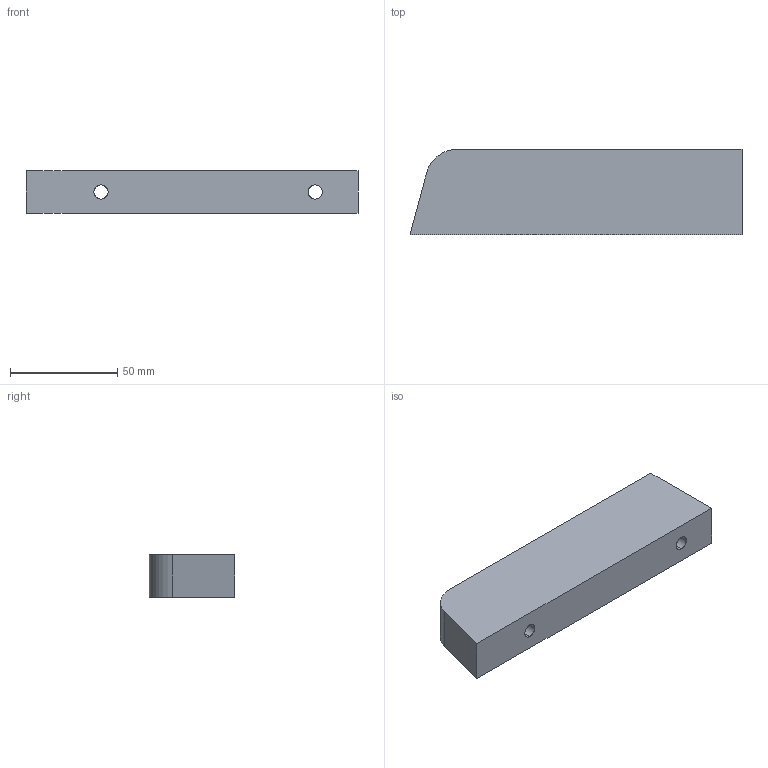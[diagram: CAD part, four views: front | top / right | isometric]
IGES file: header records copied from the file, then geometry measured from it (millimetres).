
Start section: SolidWorks IGES FILE using analytic representation for surfaces
Global section: file name: 39.IGS; native system: SolidWorks 2003 by SolidWorks Corporation; preprocessor: Version 5.3; author: sujet; date: 040213.102542; units: millimetre
Bounding box: 155 x 40 x 20 mm (x, y, z)
Surface area: 20988.6 mm2 (no closed solid volume)
Topology: 0 solids, 0 shells, 11 faces, 188 edges, 188 vertices
Faces by surface type: bspline 6, revolution 5
